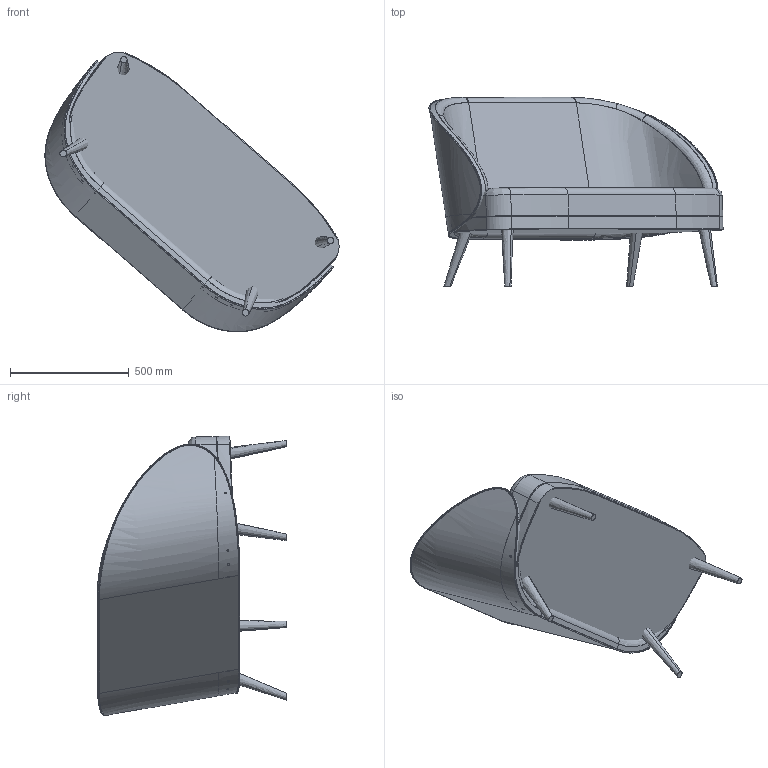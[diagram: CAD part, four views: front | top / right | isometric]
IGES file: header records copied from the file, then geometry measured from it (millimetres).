
Start section: SolidWorks IGES file using analytic representation for surfaces
Global section: file name: C:\Users\Mateus.JMS\Desktop\3D Poltronas Duplas Reboleira\Poltrona Dupla Lana A975D.IGS; native system: SolidWorks 2018; preprocessor: SolidWorks 2018; author: Mateus; date: 181031.103638; units: millimetre
Bounding box: 1236.54 x 796.43 x 1176.1 mm (x, y, z)
Surface area: 6327059.8 mm2 (no closed solid volume)
Topology: 0 solids, 0 shells, 209 faces, 5546 edges, 5544 vertices
Faces by surface type: bspline 146, revolution 63
